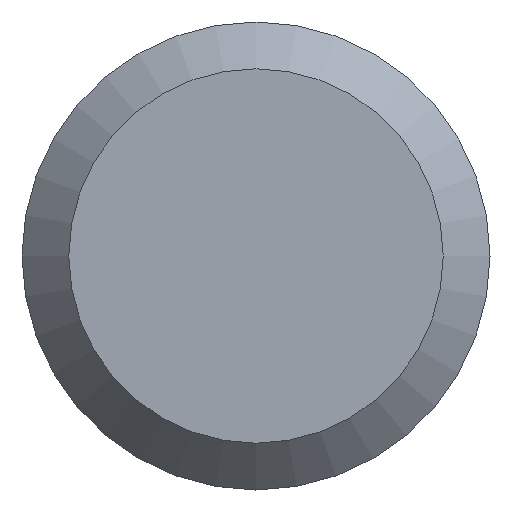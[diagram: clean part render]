
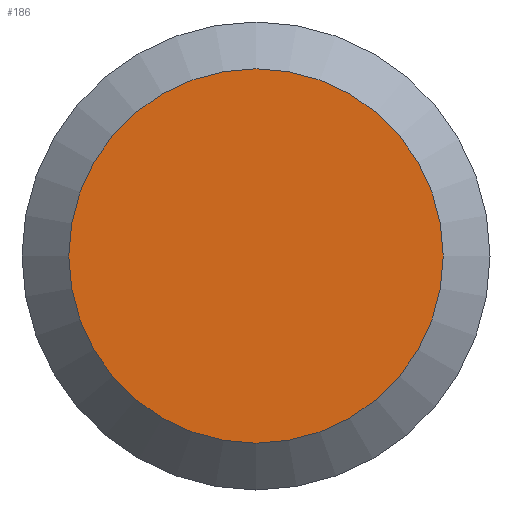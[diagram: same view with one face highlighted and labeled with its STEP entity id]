
A CAD part, left-side view. The second image highlights one B-rep face of the part: STEP entity #186.
In plain terms, the highlighted planar face has unit normal (-1, 0, 0).
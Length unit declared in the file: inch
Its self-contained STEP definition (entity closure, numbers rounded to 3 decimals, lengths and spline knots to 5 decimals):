
#5 = VERTEX_POINT ( 'NONE', #242 ) ;
#7 = FACE_OUTER_BOUND ( 'NONE', #230, .T. ) ;
#16 = CARTESIAN_POINT ( 'NONE',  ( 0., 0., 0. ) ) ;
#17 = DIRECTION ( 'NONE',  ( -1., 0., 0. ) ) ;
#19 = DIRECTION ( 'NONE',  ( 0., 0., -1. ) ) ;
#70 = ORIENTED_EDGE ( 'NONE', *, *, #207, .T. ) ;
#77 = AXIS2_PLACEMENT_3D ( 'NONE', #93, #184, #178 ) ;
#81 = PLANE ( 'NONE',  #77 ) ;
#93 = CARTESIAN_POINT ( 'NONE',  ( 0., 0.10156, 0. ) ) ;
#160 = CIRCLE ( 'NONE', #238, 0.08125 ) ;
#178 = DIRECTION ( 'NONE',  ( 0., 0., -1. ) ) ;
#184 = DIRECTION ( 'NONE',  ( 1., 0., 0. ) ) ;
#186 = ADVANCED_FACE ( 'NONE', ( #7 ), #81, .F. ) ;
#207 = EDGE_CURVE ( 'NONE', #5, #5, #160, .T. ) ;
#230 = EDGE_LOOP ( 'NONE', ( #70 ) ) ;
#238 = AXIS2_PLACEMENT_3D ( 'NONE', #16, #17, #19 ) ;
#242 = CARTESIAN_POINT ( 'NONE',  ( 0., 0., -0.08125 ) ) ;
